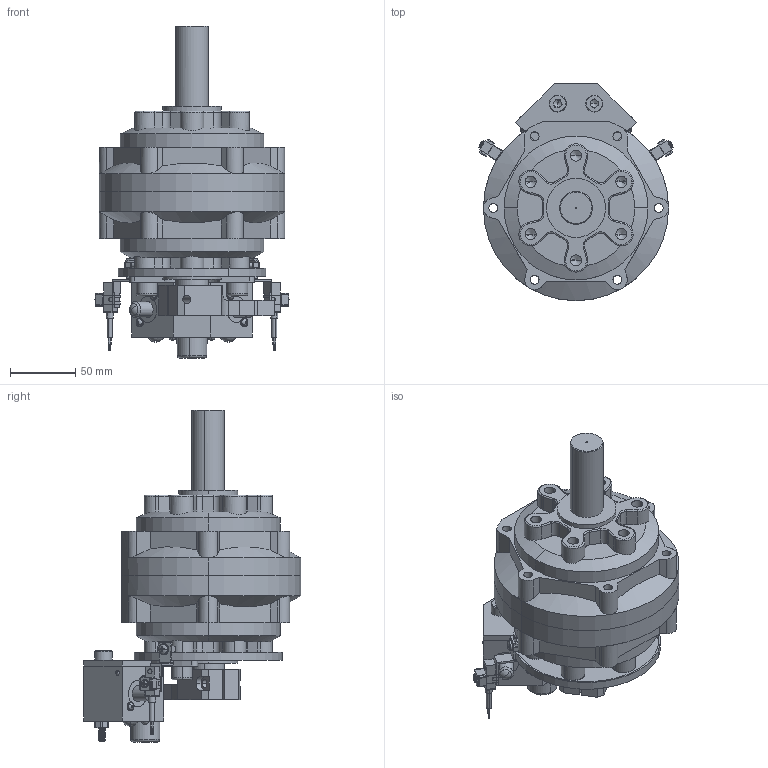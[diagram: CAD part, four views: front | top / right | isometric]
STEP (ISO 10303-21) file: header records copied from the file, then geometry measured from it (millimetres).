
FILE_DESCRIPTION (( 'STEP AP203' ), '1' );
FILE_NAME ('PRN300#-#-#-#-FC.STEP', '2016-01-14T16:48:46', ( '' ), ( '' ), 'SwSTEP 2.0', 'SolidWorks 2014', '' );
FILE_SCHEMA (( 'CONFIG_CONTROL_DESIGN' ));
Length unit declared in the file: millimetre
Products named in the file (25): PRN300#-#-#-#-FC; 300-150-PRO-CR2; 300-150-圓頂-2; 300FC-1; 300-150-零件4; 300-150-螺帽; 300-150-活動珠身體; PRN300 (1); 300-150-螺絲; 300-150-M8螺絲墊片; 300-PRO-CR1-150; mark-PRN300; 300FC-側鐵片; 300FC-M4螺絲; 300FC-板金2; CRN300; 零件1-300; 300-150-六孔螺帽2; PRN300 (2); 300-150-PRN50-CR; 300-M10螺絲; 300-150-邊底座; PRN300 (3); 300-150-M8螺絲; 300FC-感應開關-板金2
Assembly tree (39 placements, depth 3):
  PRN300#-#-#-#-FC
    PRN300 (2)
    PRN300 (1)
    PRN300 (3)
    mark-PRN300
    300-150-PRN50-CR
      300-PRO-CR1-150
      300-150-PRO-CR2
      300-150-零件4
      300-150-螺絲  x2
      300-150-M8螺絲  x2
      300-150-活動珠身體  x2
      300-150-邊底座  x2
      300-150-圓頂-2  x3
      300-150-M8螺絲墊片  x2
      300-150-六孔螺帽2  x6
      300-150-螺帽  x2
      300-M10螺絲  x2
    CRN300
    零件1-300
    300FC-感應開關-板金2  x2
      300FC-1
      300FC-側鐵片
      300FC-M4螺絲
      300FC-板金2
Bounding box: 148.27 x 166.25 x 253.7 mm (x, y, z)
Volume: 1614313.1 mm3; surface area: 238136.7 mm2
Topology: 54 solids, 54 shells, 1404 faces, 3464 edges, 2173 vertices
Faces by surface type: plane 646, cylinder 479, torus 114, cone 103, sphere 38, bspline 24
Full cylindrical faces by diameter (mm): 6.8 x1
Entity records: 36622 total; most frequent: CARTESIAN_POINT 9883, DIRECTION 5193, ORIENTED_EDGE 4794, EDGE_CURVE 2397, AXIS2_PLACEMENT_3D 1983, VERTEX_POINT 1528, VECTOR 1227, LINE 1227
